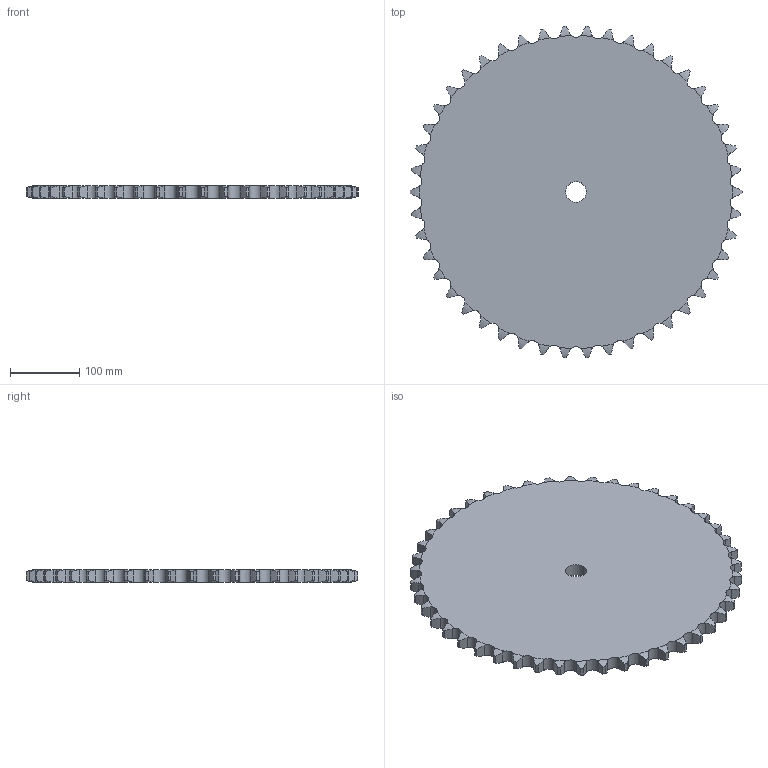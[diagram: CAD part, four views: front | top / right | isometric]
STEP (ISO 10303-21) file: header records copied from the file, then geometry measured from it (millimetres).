
FILE_DESCRIPTION((''),'2;1');
FILE_NAME('500-601-0046_PRT','2021-02-12T',('Brieden'),('Brieden'),'PRO/ENGINEER BY PARAMETRIC TECHNOLOGY CORPORATION, 2010160','PRO/ENGINEER BY PARAMETRIC TECHNOLOGY CORPORATION, 2010160','');
FILE_SCHEMA(('AUTOMOTIVE_DESIGN { 1 0 10303 214 1 1 1 1 }'));
Length unit declared in the file: millimetre
Products named in the file (1): 500-601-0046_PRT
Bounding box: 479.06 x 478.2 x 18.5 mm (x, y, z)
Volume: 3040949.4 mm3; surface area: 370072.8 mm2
Topology: 1 solids, 1 shells, 280 faces, 834 edges, 556 vertices
Faces by surface type: cylinder 186, torus 92, plane 2
Entity records: 14020 total; most frequent: CARTESIAN_POINT 4375, ORIENTED_EDGE 1668, DIRECTION 1306, PRESENTATION_STYLE_ASSIGNMENT 835, STYLED_ITEM 835, CURVE_STYLE 834, EDGE_CURVE 834, AXIS2_PLACEMENT_3D 560
